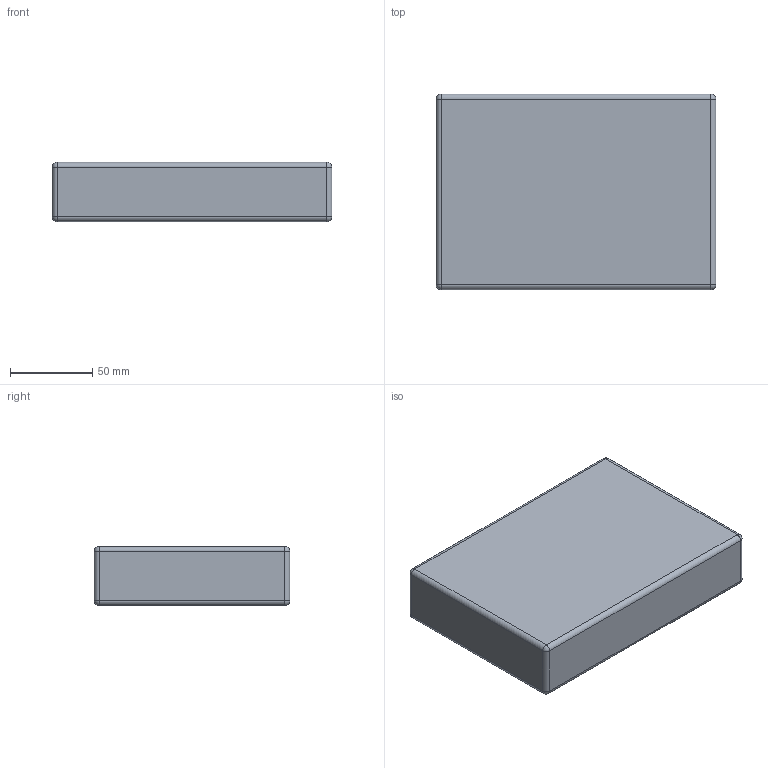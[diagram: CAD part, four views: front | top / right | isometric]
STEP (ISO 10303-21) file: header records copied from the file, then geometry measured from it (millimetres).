
FILE_DESCRIPTION(('Open CASCADE Model'),'2;1');
FILE_NAME('Q4-601','2026-10-08T13:25:58',('Author'),('Open CASCADE'), 'Open CASCADE STEP processor 8.0','build123d','Unknown');
FILE_SCHEMA(('AUTOMOTIVE_DESIGN { 1 0 10303 214 1 1 1 1 }'));
Length unit declared in the file: millimetre
Products named in the file (1): Q4-601
Bounding box: 170 x 118.8 x 36 mm (x, y, z)
Volume: 724582.9 mm3; surface area: 59502.5 mm2
Topology: 1 solids, 1 shells, 26 faces, 56 edges, 24 vertices
Faces by surface type: cylinder 12, sphere 8, plane 6
Entity records: 1226 total; most frequent: CARTESIAN_POINT 227, DIRECTION 190, ORIENTED_EDGE 96, PCURVE 96, DEFINITIONAL_REPRESENTATION 96, LINE 88, VECTOR 88, AXIS2_PLACEMENT_3D 51
